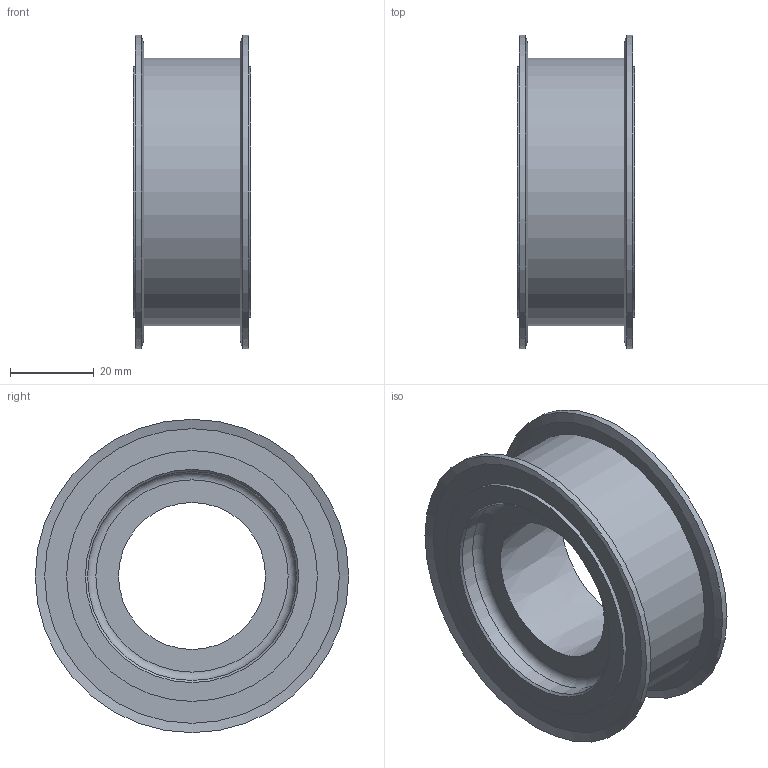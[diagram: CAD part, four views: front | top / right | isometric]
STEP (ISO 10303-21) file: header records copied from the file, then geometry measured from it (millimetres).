
FILE_DESCRIPTION(/* description */ (''),/* implementation_level */ '2;1');
FILE_NAME(/* name */ 'C:\Users\stagistaCAD\Desktop\41420028.stp',/* time_stamp */ '2018-06-18T10:50:44+02:00',/* author */ ('stagistacad'),/* organization */ (''),/* preprocessor_version */ 'ST-DEVELOPER v15.6',/* originating_system */ 'Autodesk Inventor 2015',/* authorisation */ '');
FILE_SCHEMA (('AUTOMOTIVE_DESIGN { 1 0 10303 214 3 1 1 }'));
Length unit declared in the file: millimetre
Products named in the file (1): 41420028
Bounding box: 28 x 75 x 75 mm (x, y, z)
Volume: 57942.7 mm3; surface area: 18201.7 mm2
Topology: 1 solids, 1 shells, 20 faces, 33 edges, 20 vertices
Faces by surface type: plane 7, cylinder 6, cone 6, torus 1
Full cylindrical faces by diameter (mm): 50 x1, 60 x2, 64 x1, 75 x2
Entity records: 432 total; most frequent: DIRECTION 82, CARTESIAN_POINT 61, AXIS2_PLACEMENT_3D 41, EDGE_LOOP 40, ORIENTED_EDGE 40, FACE_BOUND 20, FACE_OUTER_BOUND 20, CIRCLE 20
